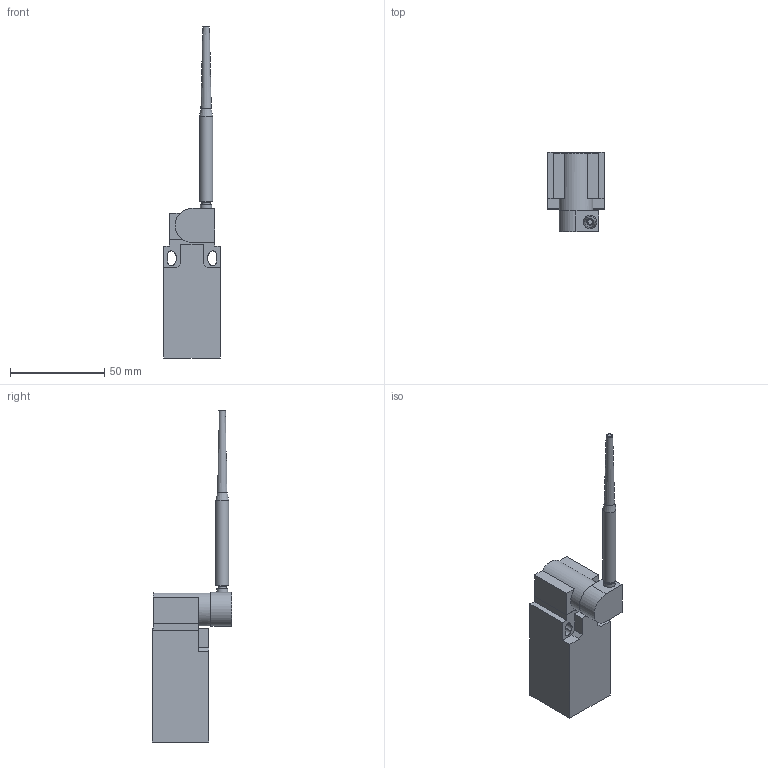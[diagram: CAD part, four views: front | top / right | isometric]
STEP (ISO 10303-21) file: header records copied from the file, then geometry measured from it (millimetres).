
FILE_DESCRIPTION((''),'2;1');
FILE_NAME('D:\Documenti_D\Corrispondenza\Comepi\Catalogo da fare\Modelli Nov 2011\AP\STEP\AP1-T61.iam.stp','2011-11-17T11:45:06',(''),(''),'Autodesk Inventor 2010','Autodesk Inventor 2010','');
FILE_SCHEMA(('AUTOMOTIVE_DESIGN { 1 0 10303 214 1 1 1 1 }'));
Length unit declared in the file: millimetre
Products named in the file (5): AP1-T61; AP1; T61.iam; T61_1; T61_2
Assembly tree (4 placements, depth 3):
  AP1-T61
    AP1
    T61.iam
      T61_1
      T61_2
Bounding box: 30.3 x 42.1 x 176.5 mm (x, y, z)
Volume: 65741 mm3; surface area: 17361.7 mm2
Topology: 3 solids, 3 shells, 60 faces, 146 edges, 95 vertices
Faces by surface type: plane 44, cylinder 12, cone 3, torus 1
Full cylindrical faces by diameter (mm): 4.4 x1, 6 x1, 7 x1, 18 x1, 20.4 x1
Entity records: 1870 total; most frequent: DIRECTION 304, CARTESIAN_POINT 299, ORIENTED_EDGE 272, EDGE_CURVE 136, VECTOR 106, LINE 106, AXIS2_PLACEMENT_3D 99, VERTEX_POINT 94
